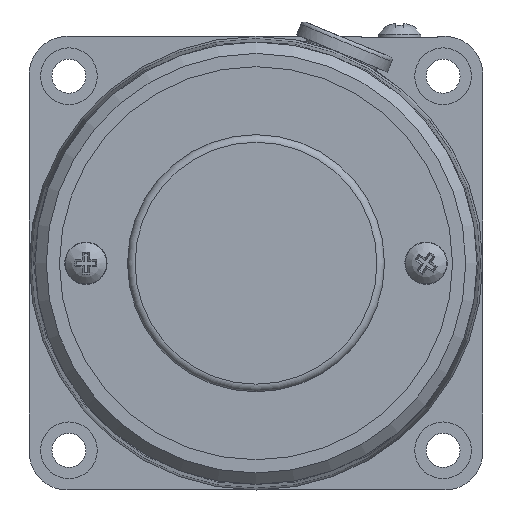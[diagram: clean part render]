
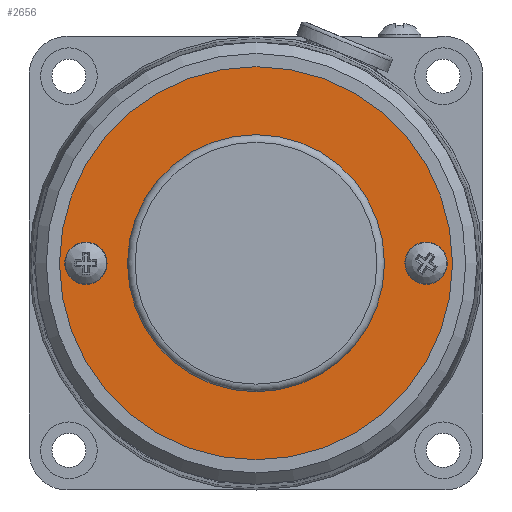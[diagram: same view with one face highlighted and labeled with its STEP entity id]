
A CAD part, left-side view. The second image highlights one B-rep face of the part: STEP entity #2656.
In plain terms, the highlighted planar face has unit normal (-1, 0, 0).
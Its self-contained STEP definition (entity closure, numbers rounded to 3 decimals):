
#163=FACE_BOUND('',#609,.T.);
#164=FACE_BOUND('',#610,.T.);
#165=FACE_BOUND('',#611,.T.);
#181=CIRCLE('',#2712,2.5);
#262=CIRCLE('',#2899,17.);
#264=CIRCLE('',#2903,26.);
#265=CIRCLE('',#2905,2.5);
#407=FACE_OUTER_BOUND('',#608,.T.);
#608=EDGE_LOOP('',(#2190));
#609=EDGE_LOOP('',(#2191));
#610=EDGE_LOOP('',(#2192));
#611=EDGE_LOOP('',(#2193));
#1059=VERTEX_POINT('',#3837);
#1227=VERTEX_POINT('',#4508);
#1229=VERTEX_POINT('',#4514);
#1230=VERTEX_POINT('',#4517);
#1310=EDGE_CURVE('',#1059,#1059,#181,.T.);
#1555=EDGE_CURVE('',#1227,#1227,#262,.T.);
#1557=EDGE_CURVE('',#1229,#1229,#264,.T.);
#1558=EDGE_CURVE('',#1230,#1230,#265,.T.);
#2190=ORIENTED_EDGE('',*,*,#1557,.F.);
#2191=ORIENTED_EDGE('',*,*,#1310,.F.);
#2192=ORIENTED_EDGE('',*,*,#1555,.T.);
#2193=ORIENTED_EDGE('',*,*,#1558,.F.);
#2371=PLANE('',#2904);
#2656=ADVANCED_FACE('',(#407,#163,#164,#165),#2371,.F.);
#2712=AXIS2_PLACEMENT_3D('',#3838,#3014,#3015);
#2899=AXIS2_PLACEMENT_3D('',#4509,#3531,#3532);
#2903=AXIS2_PLACEMENT_3D('',#4515,#3539,#3540);
#2904=AXIS2_PLACEMENT_3D('',#4516,#3541,#3542);
#2905=AXIS2_PLACEMENT_3D('',#4518,#3543,#3544);
#3014=DIRECTION('center_axis',(-1.,0.,0.));
#3015=DIRECTION('ref_axis',(0.,0.,-1.));
#3531=DIRECTION('center_axis',(1.,0.,0.));
#3532=DIRECTION('ref_axis',(0.,1.,0.));
#3539=DIRECTION('center_axis',(1.,0.,0.));
#3540=DIRECTION('ref_axis',(0.,1.,0.));
#3541=DIRECTION('center_axis',(1.,0.,0.));
#3542=DIRECTION('ref_axis',(0.,1.,0.));
#3543=DIRECTION('center_axis',(-1.,0.,0.));
#3544=DIRECTION('ref_axis',(0.,0.,-1.));
#3837=CARTESIAN_POINT('',(-0.5,-23.893,2.076));
#3838=CARTESIAN_POINT('Origin',(-0.5,-22.5,0.));
#4508=CARTESIAN_POINT('',(-0.5,-17.,0.));
#4509=CARTESIAN_POINT('Origin',(-0.5,0.,
0.));
#4514=CARTESIAN_POINT('',(-0.5,-26.,0.));
#4515=CARTESIAN_POINT('Origin',(-0.5,0.,
0.));
#4516=CARTESIAN_POINT('Origin',(-0.5,0.,
0.));
#4517=CARTESIAN_POINT('',(-0.5,25.,0.));
#4518=CARTESIAN_POINT('Origin',(-0.5,22.5,0.));
